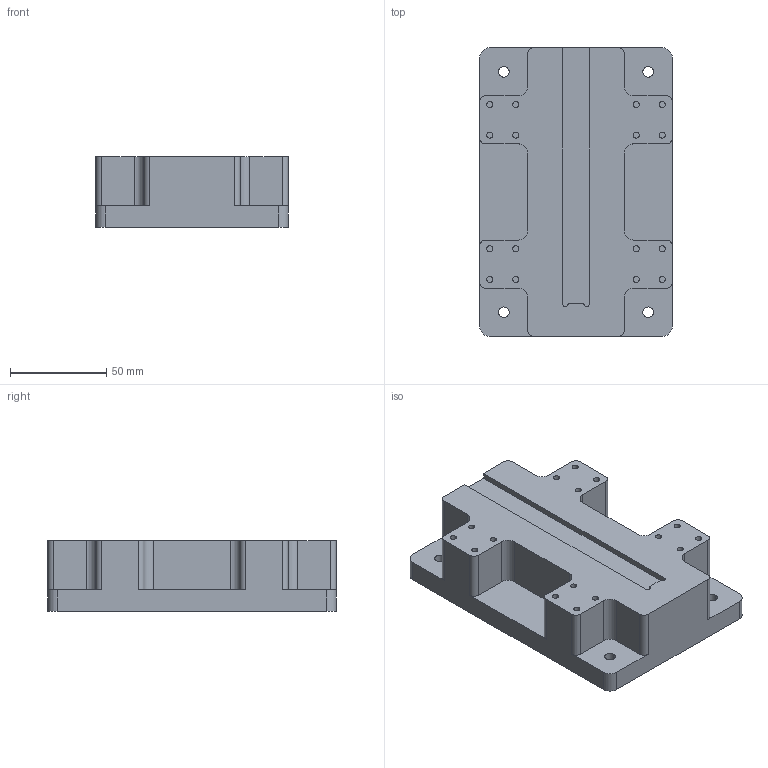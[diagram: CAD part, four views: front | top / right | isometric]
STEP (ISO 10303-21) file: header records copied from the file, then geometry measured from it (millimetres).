
FILE_DESCRIPTION(('CATIA V5 STEP Exchange'),'2;1');
FILE_NAME('D:\姚明阳\AGZ015\stp+pdf\AGZ015.03_V1.stp','2022-02-07T07:56:27+00:00',('none'),('none'),'CATIA Version 5 Release 21 GA (IN-10)','CATIA V5 STEP AP214','none');
FILE_SCHEMA(('AUTOMOTIVE_DESIGN { 1 0 10303 214 1 1 1 1 }'));
Length unit declared in the file: millimetre
Products named in the file (1): AGZ015.03_V1
Bounding box: 100 x 150 x 36.5 mm (x, y, z)
Volume: 411684.6 mm3; surface area: 53622.1 mm2
Topology: 1 solids, 1 shells, 112 faces, 286 edges, 192 vertices
Faces by surface type: cylinder 66, plane 46
Entity records: 3127 total; most frequent: ORIENTED_EDGE 572, CARTESIAN_POINT 544, DIRECTION 416, EDGE_CURVE 286, AXIS2_PLACEMENT_3D 198, VERTEX_POINT 192, VECTOR 154, LINE 154
